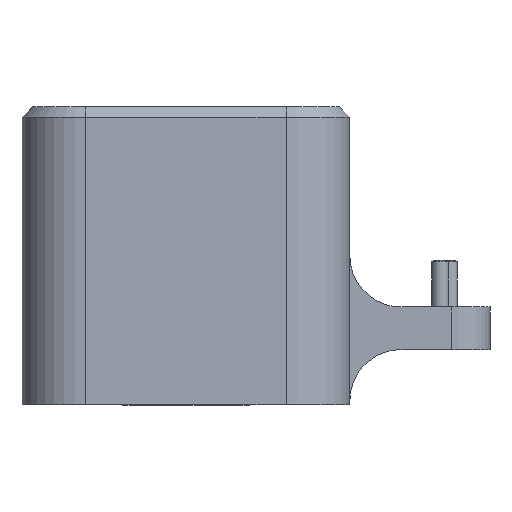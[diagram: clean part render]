
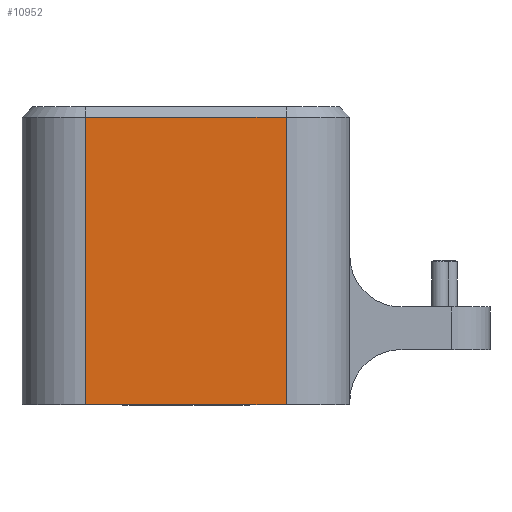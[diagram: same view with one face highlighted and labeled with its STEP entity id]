
A CAD part, left-side view. The second image highlights one B-rep face of the part: STEP entity #10952.
In plain terms, the highlighted planar face has unit normal (-1, 0, 0).
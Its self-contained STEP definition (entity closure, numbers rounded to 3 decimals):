
#1806=FACE_OUTER_BOUND('',#2441,.T.);
#2441=EDGE_LOOP('',(#8160,#8161,#8162,#8163));
#3032=LINE('',#18381,#3647);
#3141=LINE('',#18672,#3756);
#3143=LINE('',#18678,#3758);
#3144=LINE('',#18680,#3759);
#3647=VECTOR('',#13421,10.);
#3756=VECTOR('',#13736,10.);
#3758=VECTOR('',#13746,10.);
#3759=VECTOR('',#13749,10.);
#4521=VERTEX_POINT('',#18370);
#4525=VERTEX_POINT('',#18379);
#4602=VERTEX_POINT('',#18664);
#4604=VERTEX_POINT('',#18670);
#5772=EDGE_CURVE('',#4521,#4525,#3032,.T.);
#5917=EDGE_CURVE('',#4604,#4602,#3141,.T.);
#5921=EDGE_CURVE('',#4602,#4525,#3143,.T.);
#5922=EDGE_CURVE('',#4521,#4604,#3144,.T.);
#8160=ORIENTED_EDGE('',*,*,#5917,.F.);
#8161=ORIENTED_EDGE('',*,*,#5922,.F.);
#8162=ORIENTED_EDGE('',*,*,#5772,.T.);
#8163=ORIENTED_EDGE('',*,*,#5921,.F.);
#10015=PLANE('',#11835);
#10952=ADVANCED_FACE('',(#1806),#10015,.T.);
#11835=AXIS2_PLACEMENT_3D('',#18679,#13747,#13748);
#13421=DIRECTION('',(0.,-1.,0.));
#13736=DIRECTION('',(0.,-1.,0.));
#13746=DIRECTION('',(0.,0.,-1.));
#13747=DIRECTION('center_axis',(-1.,0.,0.));
#13748=DIRECTION('ref_axis',(0.,0.,1.));
#13749=DIRECTION('',(0.,0.,1.));
#18370=CARTESIAN_POINT('',(-249.8,23.5,-33.));
#18379=CARTESIAN_POINT('',(-249.8,-23.5,-33.));
#18381=CARTESIAN_POINT('',(-249.8,-15.653,-33.));
#18664=CARTESIAN_POINT('',(-249.8,-23.5,34.5));
#18670=CARTESIAN_POINT('',(-249.8,23.5,34.5));
#18672=CARTESIAN_POINT('',(-249.8,-29.75,34.5));
#18678=CARTESIAN_POINT('',(-249.8,-23.5,-5.));
#18679=CARTESIAN_POINT('Origin',(-249.8,-52.5,0.));
#18680=CARTESIAN_POINT('',(-249.8,23.5,0.));
